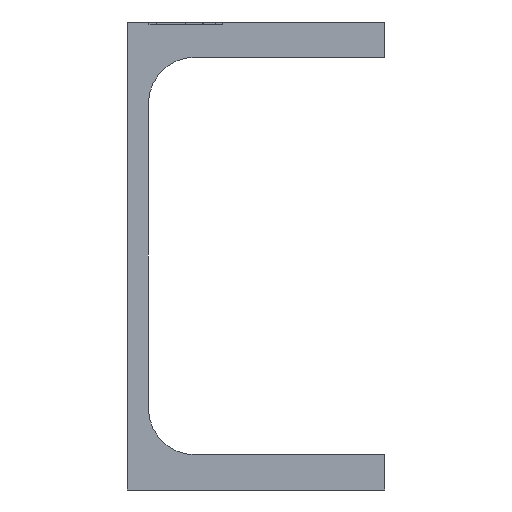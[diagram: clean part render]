
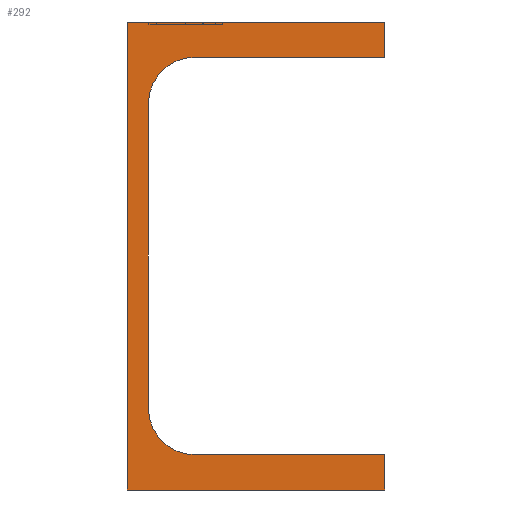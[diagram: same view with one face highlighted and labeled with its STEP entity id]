
A CAD part, left-side view. The second image highlights one B-rep face of the part: STEP entity #292.
In plain terms, the highlighted planar face has unit normal (-1, 0, 0).
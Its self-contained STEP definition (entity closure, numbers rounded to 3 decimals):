
#6 = CARTESIAN_POINT ( 'NONE',  ( -55., 1945., 5162.5 ) ) ;
#90 = CARTESIAN_POINT ( 'NONE',  ( -55., 1995.5, 5152.5 ) ) ;
#97 = CARTESIAN_POINT ( 'NONE',  ( -55., 1985.5, 5077.5 ) ) ;
#109 = CARTESIAN_POINT ( 'NONE',  ( -55., 1945., 5070. ) ) ;
#148 = PLANE ( 'NONE',  #1756 ) ;
#258 = LINE ( 'NONE', #6, #931 ) ;
#292 = ADVANCED_FACE ( 'NONE', ( #1209 ), #148, .T. ) ;
#302 = ORIENTED_EDGE ( 'NONE', *, *, #2737, .T. ) ;
#405 = VERTEX_POINT ( 'NONE', #1455 ) ;
#406 = EDGE_CURVE ( 'NONE', #1475, #4187, #1139, .T. ) ;
#448 = CARTESIAN_POINT ( 'NONE',  ( -55., 1985.5, 5077.5 ) ) ;
#465 = EDGE_CURVE ( 'NONE', #1198, #1263, #3113, .T. ) ;
#510 = VECTOR ( 'NONE', #1395, 1000. ) ;
#653 = CARTESIAN_POINT ( 'NONE',  ( -55., 2000., 5170. ) ) ;
#736 = VERTEX_POINT ( 'NONE', #3649 ) ;
#760 = DIRECTION ( 'NONE',  ( 0., 1., 0. ) ) ;
#833 = VECTOR ( 'NONE', #760, 1000. ) ;
#841 = DIRECTION ( 'NONE',  ( 0., 0., 1. ) ) ;
#931 = VECTOR ( 'NONE', #4310, 1000. ) ;
#935 = CARTESIAN_POINT ( 'NONE',  ( -55., 2000., 5170. ) ) ;
#954 = DIRECTION ( 'NONE',  ( 0., 0., 1. ) ) ;
#1048 = DIRECTION ( 'NONE',  ( 0., 1., 0. ) ) ;
#1049 = EDGE_CURVE ( 'NONE', #736, #1164, #258, .T. ) ;
#1139 = LINE ( 'NONE', #448, #833 ) ;
#1153 = VECTOR ( 'NONE', #1336, 1000. ) ;
#1164 = VERTEX_POINT ( 'NONE', #2057 ) ;
#1171 = ORIENTED_EDGE ( 'NONE', *, *, #1963, .T. ) ;
#1198 = VERTEX_POINT ( 'NONE', #4332 ) ;
#1209 = FACE_OUTER_BOUND ( 'NONE', #1219, .T. ) ;
#1219 = EDGE_LOOP ( 'NONE', ( #3066, #3257, #2281, #3579, #1171, #2050, #2957, #3866, #1760, #302 ) ) ;
#1263 = VERTEX_POINT ( 'NONE', #3783 ) ;
#1294 = CARTESIAN_POINT ( 'NONE',  ( -55., 1945., 5170. ) ) ;
#1336 = DIRECTION ( 'NONE',  ( 0., 0., 1. ) ) ;
#1345 = CARTESIAN_POINT ( 'NONE',  ( -55., 1945., 5077.5 ) ) ;
#1395 = DIRECTION ( 'NONE',  ( 0., 0., -1. ) ) ;
#1455 = CARTESIAN_POINT ( 'NONE',  ( -55., 1995.5, 5087.5 ) ) ;
#1475 = VERTEX_POINT ( 'NONE', #3007 ) ;
#1477 = DIRECTION ( 'NONE',  ( 0., -1., 0. ) ) ;
#1487 = VERTEX_POINT ( 'NONE', #2306 ) ;
#1529 = EDGE_CURVE ( 'NONE', #2538, #1198, #1700, .T. ) ;
#1619 = EDGE_CURVE ( 'NONE', #1263, #1475, #3321, .T. ) ;
#1629 = VECTOR ( 'NONE', #1477, 1000. ) ;
#1684 = CARTESIAN_POINT ( 'NONE',  ( -55., 2000., 5070. ) ) ;
#1700 = LINE ( 'NONE', #1684, #510 ) ;
#1741 = LINE ( 'NONE', #653, #4080 ) ;
#1751 = DIRECTION ( 'NONE',  ( 0., 0., 1. ) ) ;
#1756 = AXIS2_PLACEMENT_3D ( 'NONE', #2826, #4159, #841 ) ;
#1760 = ORIENTED_EDGE ( 'NONE', *, *, #1988, .T. ) ;
#1852 = CIRCLE ( 'NONE', #3222, 10. ) ;
#1917 = CARTESIAN_POINT ( 'NONE',  ( -55., 1985.5, 5087.5 ) ) ;
#1963 = EDGE_CURVE ( 'NONE', #4187, #405, #2209, .T. ) ;
#1988 = EDGE_CURVE ( 'NONE', #1164, #1487, #2293, .T. ) ;
#2050 = ORIENTED_EDGE ( 'NONE', *, *, #2314, .T. ) ;
#2057 = CARTESIAN_POINT ( 'NONE',  ( -55., 1945., 5162.5 ) ) ;
#2209 = CIRCLE ( 'NONE', #3358, 10. ) ;
#2281 = ORIENTED_EDGE ( 'NONE', *, *, #1619, .T. ) ;
#2293 = LINE ( 'NONE', #1294, #1153 ) ;
#2306 = CARTESIAN_POINT ( 'NONE',  ( -55., 1945., 5170. ) ) ;
#2314 = EDGE_CURVE ( 'NONE', #405, #3022, #3098, .T. ) ;
#2538 = VERTEX_POINT ( 'NONE', #935 ) ;
#2545 = VECTOR ( 'NONE', #954, 1000. ) ;
#2671 = CARTESIAN_POINT ( 'NONE',  ( -55., 1985.5, 5152.5 ) ) ;
#2737 = EDGE_CURVE ( 'NONE', #1487, #2538, #1741, .T. ) ;
#2826 = CARTESIAN_POINT ( 'NONE',  ( -55., 1026., 5165. ) ) ;
#2957 = ORIENTED_EDGE ( 'NONE', *, *, #3912, .T. ) ;
#2995 = DIRECTION ( 'NONE',  ( 1., 0., 0. ) ) ;
#3007 = CARTESIAN_POINT ( 'NONE',  ( -55., 1945., 5077.5 ) ) ;
#3022 = VERTEX_POINT ( 'NONE', #3180 ) ;
#3066 = ORIENTED_EDGE ( 'NONE', *, *, #1529, .T. ) ;
#3098 = LINE ( 'NONE', #90, #3927 ) ;
#3113 = LINE ( 'NONE', #109, #1629 ) ;
#3117 = DIRECTION ( 'NONE',  ( 0., 0., 1. ) ) ;
#3166 = DIRECTION ( 'NONE',  ( 0., 0., 1. ) ) ;
#3180 = CARTESIAN_POINT ( 'NONE',  ( -55., 1995.5, 5152.5 ) ) ;
#3222 = AXIS2_PLACEMENT_3D ( 'NONE', #2671, #2995, #1751 ) ;
#3257 = ORIENTED_EDGE ( 'NONE', *, *, #465, .T. ) ;
#3321 = LINE ( 'NONE', #1345, #2545 ) ;
#3358 = AXIS2_PLACEMENT_3D ( 'NONE', #1917, #3857, #3166 ) ;
#3579 = ORIENTED_EDGE ( 'NONE', *, *, #406, .T. ) ;
#3649 = CARTESIAN_POINT ( 'NONE',  ( -55., 1985.5, 5162.5 ) ) ;
#3783 = CARTESIAN_POINT ( 'NONE',  ( -55., 1945., 5070. ) ) ;
#3857 = DIRECTION ( 'NONE',  ( 1., 0., 0. ) ) ;
#3866 = ORIENTED_EDGE ( 'NONE', *, *, #1049, .T. ) ;
#3912 = EDGE_CURVE ( 'NONE', #3022, #736, #1852, .T. ) ;
#3927 = VECTOR ( 'NONE', #3117, 1000. ) ;
#4080 = VECTOR ( 'NONE', #1048, 1000. ) ;
#4159 = DIRECTION ( 'NONE',  ( -1., 0., 0. ) ) ;
#4187 = VERTEX_POINT ( 'NONE', #97 ) ;
#4310 = DIRECTION ( 'NONE',  ( 0., -1., 0. ) ) ;
#4332 = CARTESIAN_POINT ( 'NONE',  ( -55., 2000., 5070. ) ) ;
